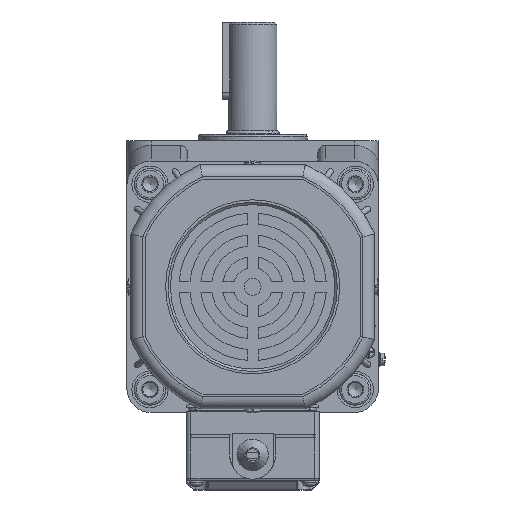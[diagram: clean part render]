
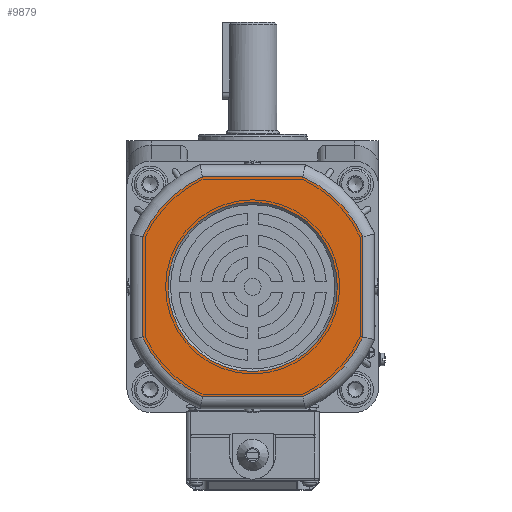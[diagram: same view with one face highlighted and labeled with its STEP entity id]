
A CAD part, left-side view. The second image highlights one B-rep face of the part: STEP entity #9879.
In plain terms, the highlighted planar face has unit normal (-1, 0, 0).
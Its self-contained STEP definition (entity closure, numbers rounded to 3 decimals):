
#1865=FACE_BOUND('',#15232,.T.);
#1866=FACE_BOUND('',#15233,.T.);
#3189=PLANE('',#42479);
#4455=LINE('',#59585,#7116);
#4456=LINE('',#59601,#7117);
#4459=LINE('',#59653,#7120);
#4460=LINE('',#59669,#7121);
#7116=VECTOR('',#47723,1.);
#7117=VECTOR('',#47726,1.);
#7120=VECTOR('',#47743,1.);
#7121=VECTOR('',#47746,1.);
#9879=ADVANCED_FACE('',(#1865,#1866),#3189,.F.);
#15232=EDGE_LOOP('',(#19843));
#15233=EDGE_LOOP('',(#19844,#19845,#19846,#19847,#19848,#19849,#19850,#19851));
#19843=ORIENTED_EDGE('',*,*,#34301,.T.);
#19844=ORIENTED_EDGE('',*,*,#34311,.T.);
#19845=ORIENTED_EDGE('',*,*,#34306,.T.);
#19846=ORIENTED_EDGE('',*,*,#34313,.T.);
#19847=ORIENTED_EDGE('',*,*,#34319,.T.);
#19848=ORIENTED_EDGE('',*,*,#34325,.T.);
#19849=ORIENTED_EDGE('',*,*,#34327,.T.);
#19850=ORIENTED_EDGE('',*,*,#34323,.T.);
#19851=ORIENTED_EDGE('',*,*,#34317,.T.);
#30072=VERTEX_POINT('',#59530);
#30077=VERTEX_POINT('',#59552);
#30078=VERTEX_POINT('',#59554);
#30080=VERTEX_POINT('',#59582);
#30083=VERTEX_POINT('',#59600);
#30084=VERTEX_POINT('',#59616);
#30087=VERTEX_POINT('',#59634);
#30088=VERTEX_POINT('',#59650);
#30091=VERTEX_POINT('',#59668);
#34301=EDGE_CURVE('',#30072,#30072,#39765,.T.);
#34306=EDGE_CURVE('',#30078,#30077,#39769,.T.);
#34311=EDGE_CURVE('',#30080,#30078,#4455,.T.);
#34313=EDGE_CURVE('',#30077,#30083,#4456,.T.);
#34317=EDGE_CURVE('',#30084,#30080,#39772,.T.);
#34319=EDGE_CURVE('',#30083,#30087,#39773,.T.);
#34323=EDGE_CURVE('',#30088,#30084,#4459,.T.);
#34325=EDGE_CURVE('',#30087,#30091,#4460,.T.);
#34327=EDGE_CURVE('',#30091,#30088,#39775,.T.);
#39765=CIRCLE('',#42217,35.);
#39769=CIRCLE('',#42223,50.);
#39772=CIRCLE('',#42229,50.);
#39773=CIRCLE('',#42231,50.);
#39775=CIRCLE('',#42236,50.);
#42217=AXIS2_PLACEMENT_3D('',#59529,#47704,#47705);
#42223=AXIS2_PLACEMENT_3D('',#59553,#47716,#47717);
#42229=AXIS2_PLACEMENT_3D('',#59619,#47732,#47733);
#42231=AXIS2_PLACEMENT_3D('',#59635,#47736,#47737);
#42236=AXIS2_PLACEMENT_3D('',#59672,#47750,#47751);
#42479=AXIS2_PLACEMENT_3D('',#60421,#48428,#48429);
#47704=DIRECTION('',(1.,0.,0.));
#47705=DIRECTION('',(0.,-1.,0.));
#47716=DIRECTION('',(-1.,0.,0.));
#47717=DIRECTION('',(0.,0.,1.));
#47723=DIRECTION('',(0.,-1.,0.));
#47726=DIRECTION('',(0.,0.,1.));
#47732=DIRECTION('',(-1.,0.,0.));
#47733=DIRECTION('',(0.,0.,1.));
#47736=DIRECTION('',(-1.,0.,0.));
#47737=DIRECTION('',(0.,0.,1.));
#47743=DIRECTION('',(0.,0.,-1.));
#47746=DIRECTION('',(0.,1.,0.));
#47750=DIRECTION('',(-1.,0.,0.));
#47751=DIRECTION('',(0.,0.,1.));
#48428=DIRECTION('',(1.,0.,0.));
#48429=DIRECTION('',(0.,0.,1.));
#59529=CARTESIAN_POINT('',(-227.8,-120.671,-58.491));
#59530=CARTESIAN_POINT('',(-227.8,-155.671,-58.491));
#59552=CARTESIAN_POINT('',(-227.8,-166.171,-79.221));
#59553=CARTESIAN_POINT('',(-227.8,-120.671,-58.491));
#59554=CARTESIAN_POINT('',(-227.8,-141.402,-103.991));
#59582=CARTESIAN_POINT('',(-227.8,-99.941,-103.991));
#59585=CARTESIAN_POINT('',(-227.8,-142.46,-103.991));
#59600=CARTESIAN_POINT('',(-227.8,-166.171,-37.76));
#59601=CARTESIAN_POINT('',(-227.8,-166.171,-36.702));
#59616=CARTESIAN_POINT('',(-227.8,-75.171,-79.221));
#59619=CARTESIAN_POINT('',(-227.8,-120.671,-58.491));
#59634=CARTESIAN_POINT('',(-227.8,-141.402,-12.991));
#59635=CARTESIAN_POINT('',(-227.8,-120.671,-58.491));
#59650=CARTESIAN_POINT('',(-227.8,-75.171,-37.76));
#59653=CARTESIAN_POINT('',(-227.8,-75.171,-80.28));
#59668=CARTESIAN_POINT('',(-227.8,-99.941,-12.991));
#59669=CARTESIAN_POINT('',(-227.8,-98.882,-12.991));
#59672=CARTESIAN_POINT('',(-227.8,-120.671,-58.491));
#60421=CARTESIAN_POINT('',(-227.8,-120.671,-58.491));
